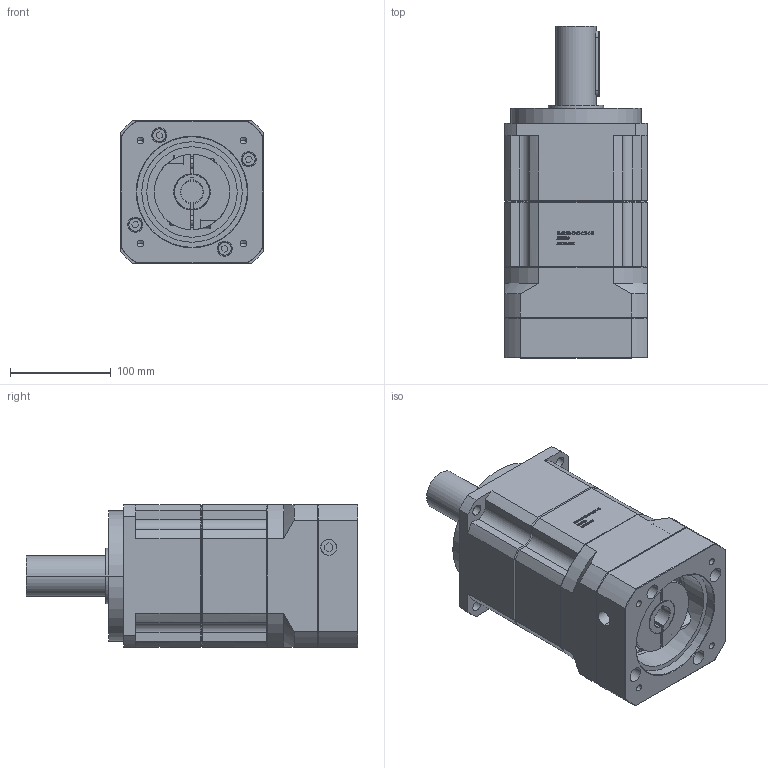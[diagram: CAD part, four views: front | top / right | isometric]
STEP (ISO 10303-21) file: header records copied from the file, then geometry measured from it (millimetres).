
FILE_DESCRIPTION (( 'STEP AP203' ), '1' );
FILE_NAME ('PAGT140-L2-22-110-145.STEP', '2022-07-28T08:03:24', ( 'Windows User' ), ( 'P R C' ), 'SwSTEP 2.0', 'SolidWorks 2016', '' );
FILE_SCHEMA (( 'CONFIG_CONTROL_DESIGN' ));
Length unit declared in the file: millimetre
Products named in the file (8): GB／T70．1-2000内六角圆柱头螺钉M8×45; 35-22曹噤杶; PAGT140-L2-22-110-145; PAGT140-CQ_L2; GB／T1096-2003普通平键A型12×65; PAGT140-XG01; PAGT140-LJ02 110-145-M8; GB／T70．1-2000内六角圆柱头螺钉M10×30
Assembly tree (11 placements, depth 2):
  PAGT140-L2-22-110-145
    PAGT140-CQ_L2
    GB／T1096-2003普通平键A型12×65
    PAGT140-XG01
    PAGT140-LJ02 110-145-M8
    GB／T70．1-2000内六角圆柱头螺钉M10×30  x2
    GB／T70．1-2000内六角圆柱头螺钉M8×45  x4
    35-22曹噤杶
Bounding box: 142 x 330 x 142 mm (x, y, z)
Volume: 4149664.9 mm3; surface area: 345457 mm2
Topology: 11 solids, 11 shells, 1130 faces, 2845 edges, 1833 vertices
Faces by surface type: plane 660, cylinder 211, bspline 178, cone 81
Entity records: 38634 total; most frequent: CARTESIAN_POINT 13161, ORIENTED_EDGE 5306, DIRECTION 4531, EDGE_CURVE 2653, LINE 1833, VECTOR 1833, VERTEX_POINT 1723, AXIS2_PLACEMENT_3D 1349
